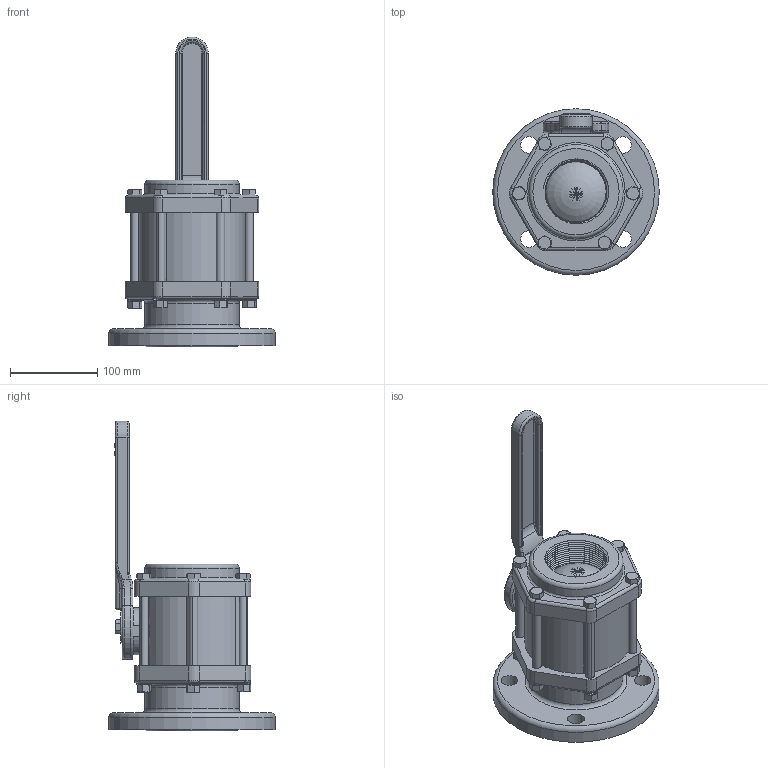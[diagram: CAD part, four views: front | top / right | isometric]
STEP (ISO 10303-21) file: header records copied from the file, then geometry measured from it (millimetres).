
FILE_DESCRIPTION(/* description */ ('Alibre Inc.'),/* implementation_level */ '2;1');
FILE_NAME(/* name */ 'export0',/* time_stamp */ '2017-09-29T10:27:22-04:00',/* author */ (''),/* organization */ (''),/* preprocessor_version */ 'ST-DEVELOPER v14',/* originating_system */ 'Alibre',/* authorisation */ '');
FILE_SCHEMA (('CONFIG_CONTROL_DESIGN'));
Length unit declared in the file: inch
Products named in the file (15): ID_1; ID_2; ID_3; ID_4; ID_5; ID_6; ID_7; ID_8; ID_9; ID_10; ID_11; ID_12; ID_13
Bounding box: 190.5 x 190.5 x 354.84 mm (x, y, z)
Volume: 1963106.9 mm3; surface area: 513702.4 mm2
Topology: 31 solids, 31 shells, 1694 faces, 4458 edges, 2855 vertices
Faces by surface type: cylinder 562, plane 444, bspline 417, cone 218, torus 52, sphere 1
Full cylindrical faces by diameter (mm): 7.798 x1, 9.906 x12, 10.414 x1, 19.05 x4, 25.4 x3, 31.496 x3, 35.814 x1, 36.322 x2, 36.576 x2, 38.1 x1, 59.944 x1, 60.452 x1, 63.5 x2, 100.838 x2, 102.108 x1, 107.95 x2, 109.22 x2, 113.792 x2, 190.5 x1
Entity records: 54654 total; most frequent: CARTESIAN_POINT 37811, ORIENTED_EDGE 3466, DIRECTION 2325, EDGE_CURVE 1733, VERTEX_POINT 1155, AXIS2_PLACEMENT_3D 930, FACE_BOUND 828, EDGE_LOOP 827
